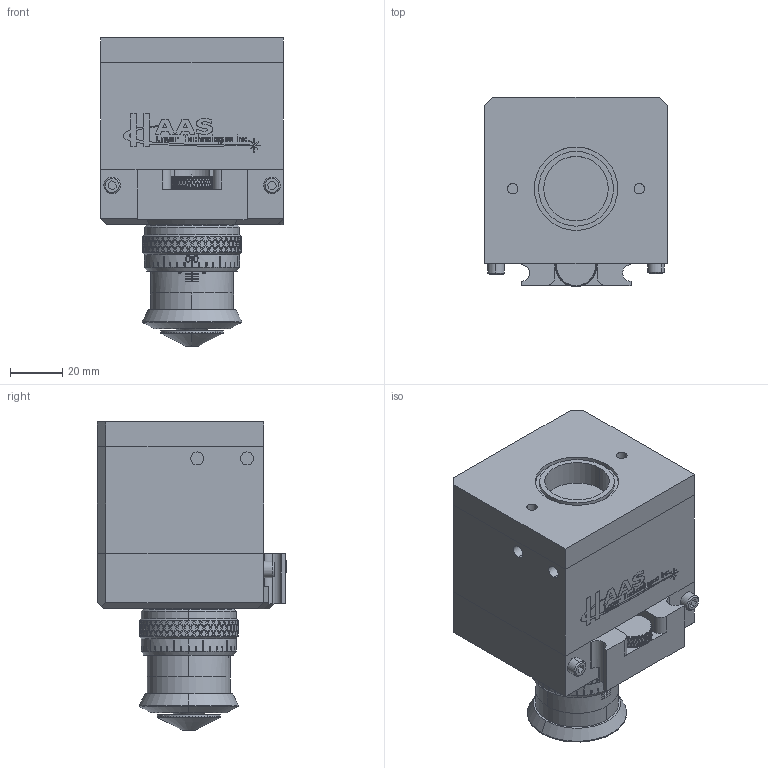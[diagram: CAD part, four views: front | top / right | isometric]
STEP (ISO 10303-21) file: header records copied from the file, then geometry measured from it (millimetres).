
FILE_DESCRIPTION (( 'STEP AP214' ), '1' );
FILE_NAME ('G6-25-28-63.STEP', '2016-11-02T15:00:48', ( '' ), ( '' ), 'SwSTEP 2.0', 'SolidWorks 2016', '' );
FILE_SCHEMA (( 'AUTOMOTIVE_DESIGN' ));
Products named in the file (1): G6-25-28-63
Bounding box: 69.85 x 72.26 x 117.8 mm (x, y, z)
Volume: 339843.8 mm3; surface area: 50405.3 mm2
Topology: 1 solids, 1 shells, 4444 faces, 11687 edges, 7308 vertices
Faces by surface type: plane 3356, cylinder 898, cone 140, bspline 48, torus 2
Entity records: 137194 total; most frequent: CARTESIAN_POINT 38497, ORIENTED_EDGE 23374, DIRECTION 17189, EDGE_CURVE 11687, VERTEX_POINT 7308, VECTOR 6505, LINE 6505, AXIS2_PLACEMENT_3D 5342
